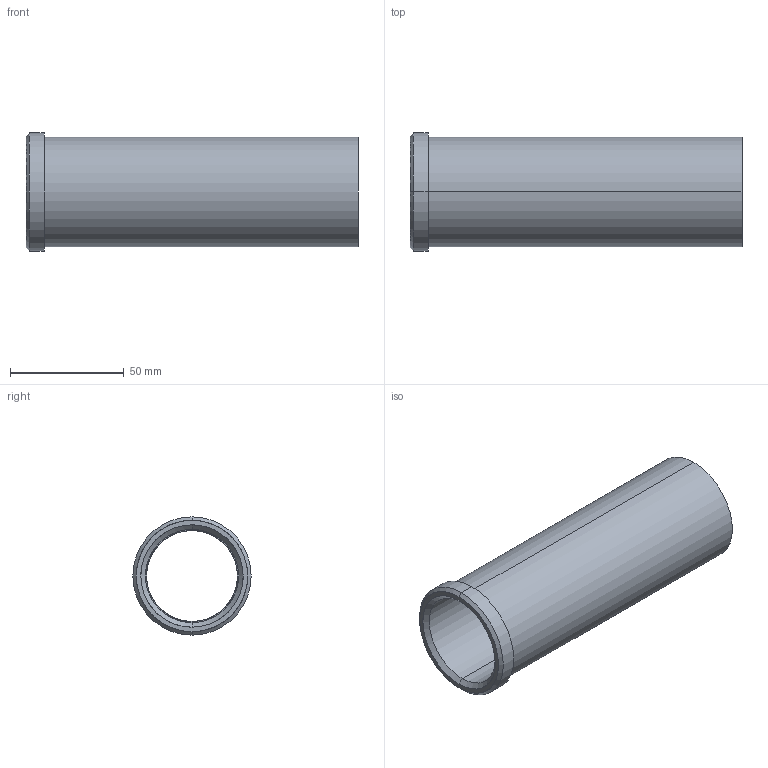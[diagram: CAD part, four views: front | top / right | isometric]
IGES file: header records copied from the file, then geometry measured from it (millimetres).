
Start section: START RECORD GO HERE.
Global section: file name: 353-40X146.igs; native system: DASSAULT SYSTEMES CATIA V5 R20 - www.3ds.com; preprocessor: CATIA Version 5 Release 20 ; author: Utente; organization: NB04-ASUS; date: 20210513.202839; units: millimetre
Bounding box: 146 x 52 x 52 mm (x, y, z)
Surface area: 42007 mm2 (no closed solid volume)
Topology: 0 solids, 0 shells, 18 faces, 116 edges, 116 vertices
Faces by surface type: revolution 14, plane 4
